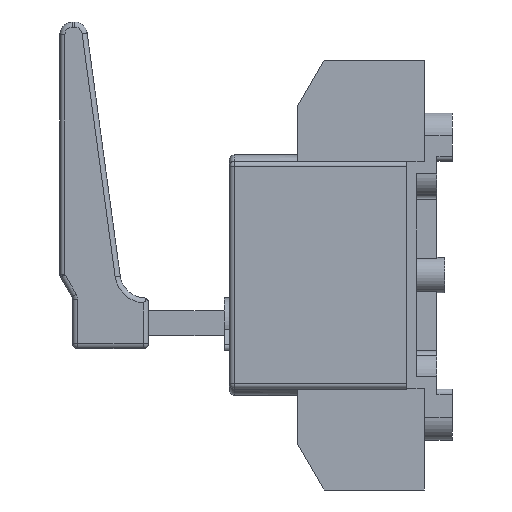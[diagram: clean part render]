
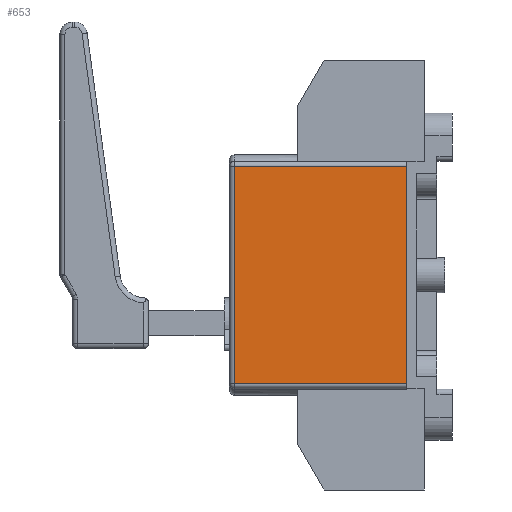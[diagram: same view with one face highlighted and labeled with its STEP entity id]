
A CAD part, left-side view. The second image highlights one B-rep face of the part: STEP entity #653.
In plain terms, the highlighted planar face has unit normal (-1, 0, 0).
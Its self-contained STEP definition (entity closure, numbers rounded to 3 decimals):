
#653=ADVANCED_FACE('',(#1144),#970,.F.);
#970=PLANE('',#6072);
#1144=FACE_OUTER_BOUND('',#1410,.T.);
#1410=EDGE_LOOP('',(#1961,#1962,#1963,#1964));
#1961=ORIENTED_EDGE('',*,*,#4194,.F.);
#1962=ORIENTED_EDGE('',*,*,#4195,.T.);
#1963=ORIENTED_EDGE('',*,*,#4191,.T.);
#1964=ORIENTED_EDGE('',*,*,#4196,.T.);
#3623=VERTEX_POINT('',#8706);
#3624=VERTEX_POINT('',#8707);
#3625=VERTEX_POINT('',#8712);
#3626=VERTEX_POINT('',#8713);
#4191=EDGE_CURVE('',#3623,#3624,#5006,.T.);
#4194=EDGE_CURVE('',#3625,#3626,#5007,.T.);
#4195=EDGE_CURVE('',#3625,#3623,#5008,.T.);
#4196=EDGE_CURVE('',#3624,#3626,#5009,.T.);
#5006=LINE('',#8705,#5557);
#5007=LINE('',#8711,#5558);
#5008=LINE('',#8714,#5559);
#5009=LINE('',#8715,#5560);
#5557=VECTOR('',#6841,1.);
#5558=VECTOR('',#6848,1.);
#5559=VECTOR('',#6849,1.);
#5560=VECTOR('',#6850,1.);
#6072=AXIS2_PLACEMENT_3D('',#8716,#6851,#6852);
#6841=DIRECTION('',(0.,-1.,0.));
#6848=DIRECTION('',(0.,-1.,0.));
#6849=DIRECTION('',(0.,0.,-1.));
#6850=DIRECTION('',(0.,0.,1.));
#6851=DIRECTION('',(1.,0.,0.));
#6852=DIRECTION('',(0.,0.,-1.));
#8705=CARTESIAN_POINT('',(-41.,35.,-43.));
#8706=CARTESIAN_POINT('',(-41.,68.,-43.));
#8707=CARTESIAN_POINT('',(-41.,0.,-43.));
#8711=CARTESIAN_POINT('',(-41.,35.,43.));
#8712=CARTESIAN_POINT('',(-41.,68.,43.));
#8713=CARTESIAN_POINT('',(-41.,0.,43.));
#8714=CARTESIAN_POINT('',(-41.,68.,-43.));
#8715=CARTESIAN_POINT('',(-41.,0.,-43.));
#8716=CARTESIAN_POINT('',(-41.,35.,-43.));
